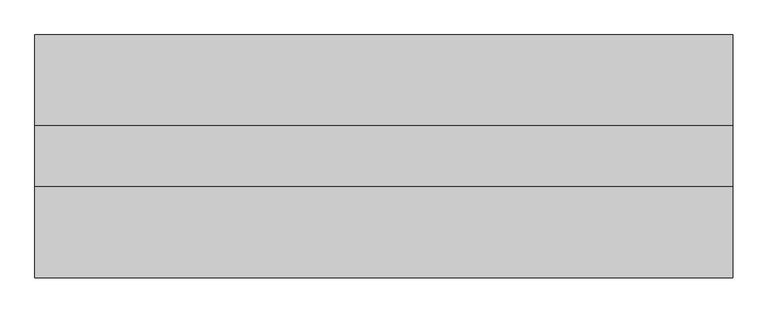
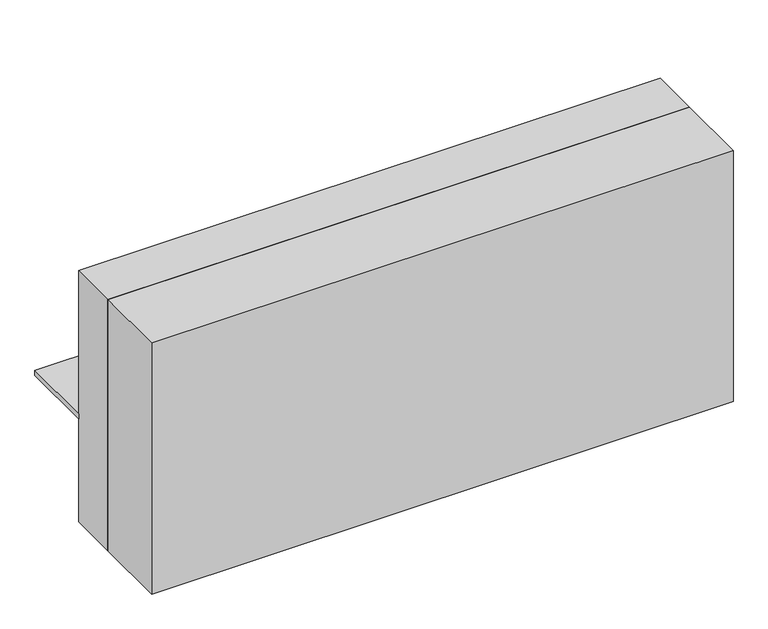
"""IFC4 building model written with IfcOpenShell, lengths in millimetres: proxy geometry, BIMHealth-Worktop-LOD2A-v1 : BIMHealth-Worktop-LOD2A-v1."""

from ifc_helpers import new_model, si_unit, frame, origin, origin_with_axes, place, context, project, spatial, polyline, outline, extrude, source, transform, mapped, element, save


def generic_models_2b17b7d5(model_context):
    return source(origin(), model_context, "Body", "SweptSolid", [
        extrude(outline(polyline([(4600.0, 0.0), (4600.0, -600.0), (0.0, -600.0), (0.0, 0.0), (4600.0, 0.0)])), frame((0.0, 0.0, 860.0), z_axis=(0.0, 0.0, 1.0), x_axis=(1.0, 0.0, 0.0)), (0.0, 0.0, 1.0), 40.0),
        extrude(outline(polyline([(4600.0, -1000.0), (4600.0, -1600.0), (0.0, -1600.0), (0.0, -1000.0), (4600.0, -1000.0)])), origin_with_axes(), (0.0, 0.0, 1.0), 2100.0),
        extrude(outline(polyline([(4600.0, -600.0), (4600.0, -1000.0), (0.0, -1000.0), (0.0, -600.0), (4600.0, -600.0)])), origin_with_axes(), (0.0, 0.0, 1.0), 2100.0),
    ])


if __name__ == "__main__":
    model = new_model("IFC4")
    model_context = context("Model", 3, world=origin())
    ifc_project = project(units=[si_unit("LENGTHUNIT", "METRE", prefix="MILLI")], contexts=[model_context])
    site = spatial("IfcSite", under=ifc_project)
    building = spatial("IfcBuilding", under=site)
    placement = place(None, origin())
    generic_models_shape = generic_models_2b17b7d5(model_context)
    element("IfcBuildingElementProxy", 1, Name="BIMHealth-Worktop-LOD2A-v1 : BIMHealth-Worktop-LOD2A-v1", ObjectType="BIMHealth-Worktop-LOD2A-v1 : BIMHealth-Worktop-LOD2A-v1", at=placement, inside=building, context=model_context, shape_type="MappedRepresentation", body=[
        mapped(generic_models_shape, transform((0.0, 0.0, 0.0), x_axis=(1.0, 0.0, 0.0), y_axis=(0.0, 1.0, 0.0), z_axis=(0.0, 0.0, 1.0))),
    ])
    save(model, "model.ifc")
